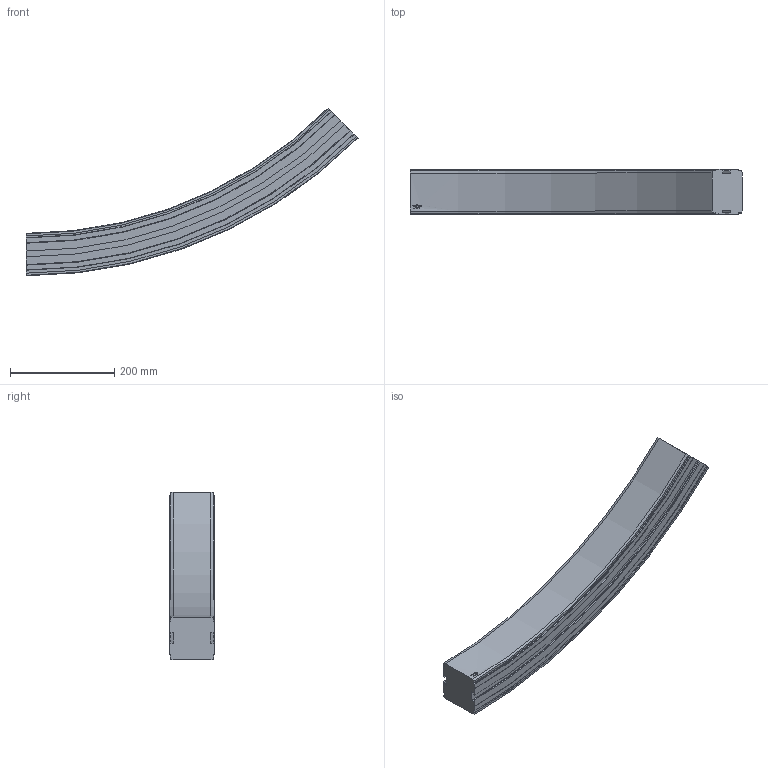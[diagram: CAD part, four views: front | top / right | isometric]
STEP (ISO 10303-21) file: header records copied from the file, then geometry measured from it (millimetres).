
FILE_DESCRIPTION((''),'2;1');
FILE_NAME('C:\Vault Klient\Projekt\Koncept konstruktion\Serie 830 Balk\830-5670_UP.stp','2009-11-27T11:18:49',('Mathias'),(''),'Autodesk Inventor 2010','Autodesk Inventor 2010','');
FILE_SCHEMA(('AUTOMOTIVE_DESIGN { 1 0 10303 214 1 1 1 1 }'));
Length unit declared in the file: millimetre
Products named in the file (1): 830-5670_UP
Bounding box: 637.81 x 86 x 321.82 mm (x, y, z)
Volume: 4496069 mm3; surface area: 289608 mm2
Topology: 1 solids, 1 shells, 93 faces, 258 edges, 172 vertices
Faces by surface type: plane 40, cylinder 23, bspline 14, cone 12, torus 4
Entity records: 3437 total; most frequent: CARTESIAN_POINT 1002, ORIENTED_EDGE 516, DIRECTION 472, EDGE_CURVE 258, VERTEX_POINT 172, AXIS2_PLACEMENT_3D 162, VECTOR 148, LINE 148
